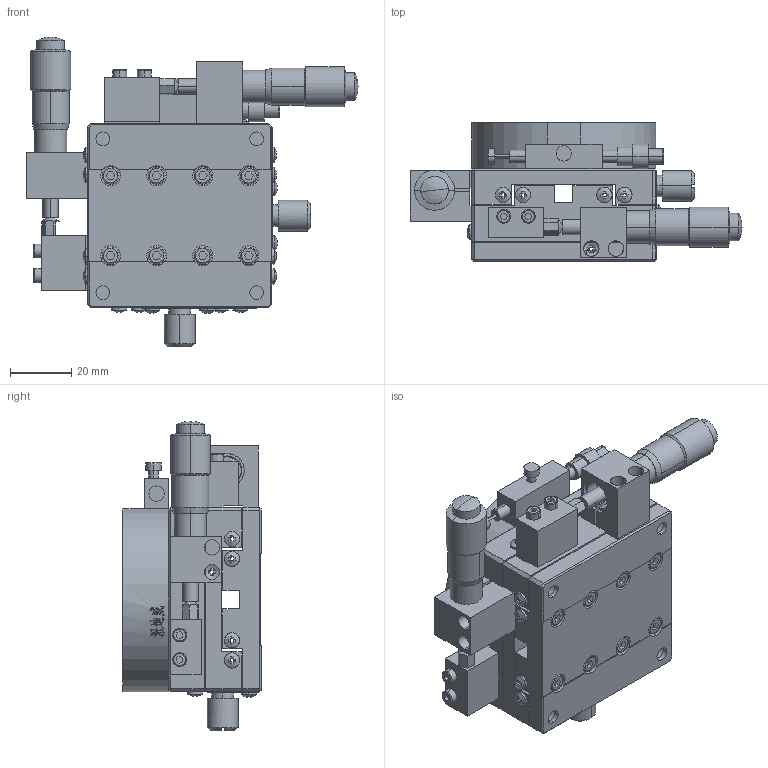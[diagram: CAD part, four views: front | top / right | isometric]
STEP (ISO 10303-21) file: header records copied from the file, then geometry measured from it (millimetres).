
FILE_DESCRIPTION (( 'STEP AP214' ), '1' );
FILE_NAME ('RD60.STEP', '2022-09-12T08:10:03', ( '' ), ( '' ), 'SwSTEP 2.0', 'SolidWorks 2017', '' );
FILE_SCHEMA (( 'AUTOMOTIVE_DESIGN' ));
Length unit declared in the file: millimetre
Products named in the file (3): RD60ㄗ1ㄘ; 埴攫60; RD60
Assembly tree (2 placements, depth 2):
  RD60
    RD60ㄗ1ㄘ
    埴攫60
Bounding box: 108 x 45 x 100.6 mm (x, y, z)
Volume: 43935.7 mm3; surface area: 58515.4 mm2
Topology: 1 solids, 31 shells, 1131 faces, 3275 edges, 2184 vertices
Faces by surface type: plane 502, bspline 345, cylinder 188, cone 94, torus 2
Entity records: 55681 total; most frequent: CARTESIAN_POINT 29443, ORIENTED_EDGE 5962, DIRECTION 3936, EDGE_CURVE 3244, VERTEX_POINT 2184, B_SPLINE_CURVE_WITH_KNOTS 1408, AXIS2_PLACEMENT_3D 1333, EDGE_LOOP 1282
